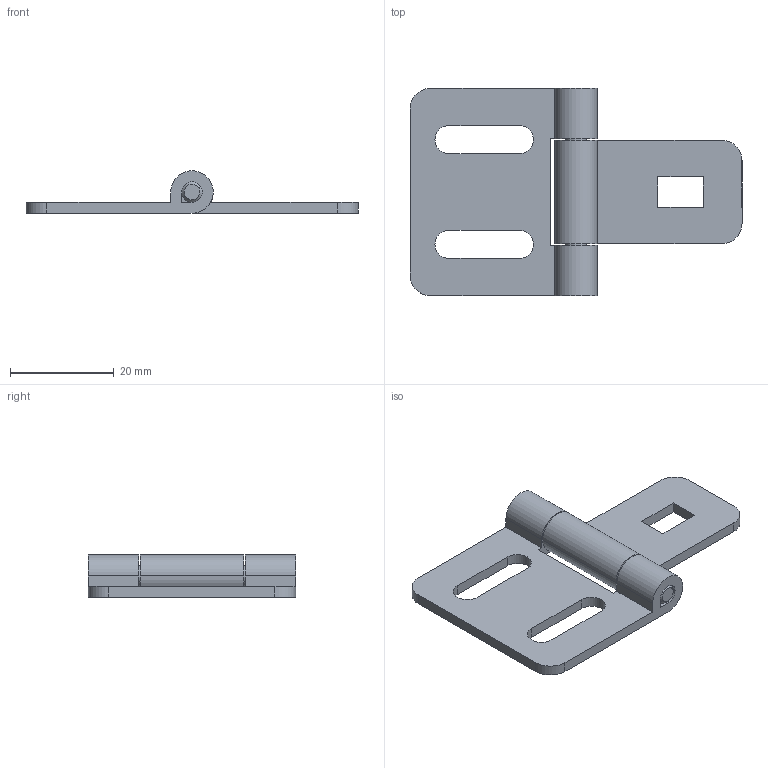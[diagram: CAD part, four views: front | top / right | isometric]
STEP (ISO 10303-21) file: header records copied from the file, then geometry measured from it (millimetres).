
FILE_DESCRIPTION (( 'STEP AP203' ), '1' );
FILE_NAME ('10490_SCHST.STEP', '2018-05-24T09:07:26', ( '' ), ( '' ), 'SwSTEP 2.0', 'SolidWorks 2017', '' );
FILE_SCHEMA (( 'CONFIG_CONTROL_DESIGN' ));
Length unit declared in the file: millimetre
Products named in the file (4): 10490_SCHST; 10490-01-0000-01; 10490-01-0000-02; 10490-01-0000-00
Assembly tree (3 placements, depth 2):
  10490_SCHST
    10490-01-0000-00
    10490-01-0000-01
    10490-01-0000-02
Bounding box: 64 x 40 x 8.2 mm (x, y, z)
Volume: 5145.6 mm3; surface area: 5744.7 mm2
Topology: 3 solids, 3 shells, 56 faces, 146 edges, 96 vertices
Faces by surface type: plane 29, cylinder 23, cone 4
Entity records: 2166 total; most frequent: DIRECTION 320, CARTESIAN_POINT 304, ORIENTED_EDGE 292, EDGE_CURVE 146, AXIS2_PLACEMENT_3D 112, VECTOR 96, VERTEX_POINT 96, LINE 96
